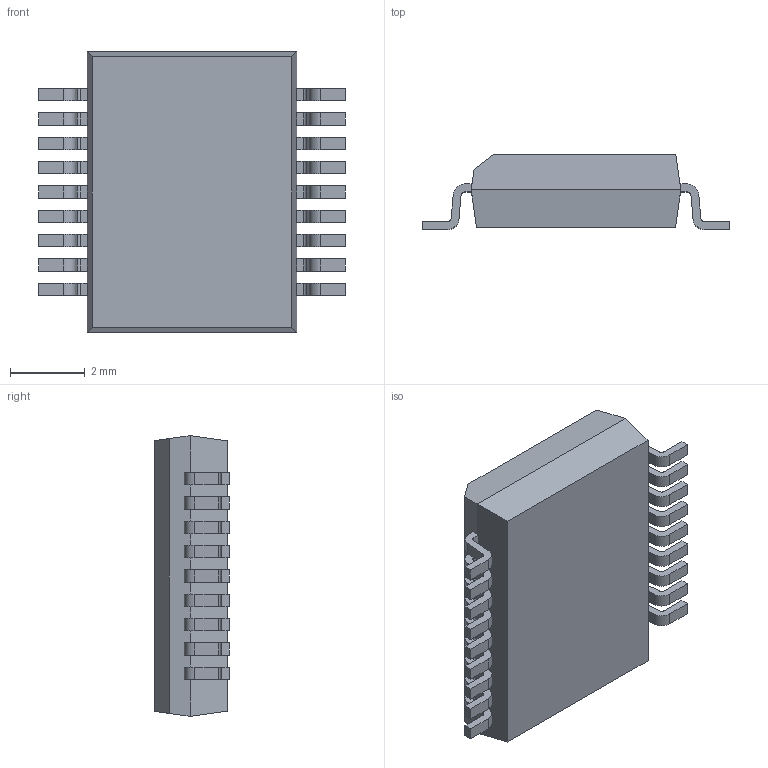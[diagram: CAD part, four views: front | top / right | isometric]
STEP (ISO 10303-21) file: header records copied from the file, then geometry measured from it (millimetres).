
FILE_DESCRIPTION (( 'STEP AP214' ), '1' );
FILE_NAME ('SOP65P780X200-18_MO-150.AD.STEP', '2014-10-28T13:31:51', ( 'Tester2' ), ( '' ), 'SwSTEP 2.0', 'SolidWorks 2012', '' );
FILE_SCHEMA (( 'AUTOMOTIVE_DESIGN' ));
Length unit declared in the file: millimetre
Products named in the file (1): SOP65P780X200-18_MO-150.AD
Bounding box: 8.2 x 2 x 7.5 mm (x, y, z)
Volume: 80.4 mm3; surface area: 166.4 mm2
Topology: 1 solids, 1 shells, 248 faces, 731 edges, 486 vertices
Faces by surface type: plane 174, cylinder 74
Entity records: 10872 total; most frequent: CARTESIAN_POINT 1466, ORIENTED_EDGE 1462, DIRECTION 1377, EDGE_CURVE 731, LINE 583, VECTOR 583, VERTEX_POINT 486, AXIS2_PLACEMENT_3D 397
